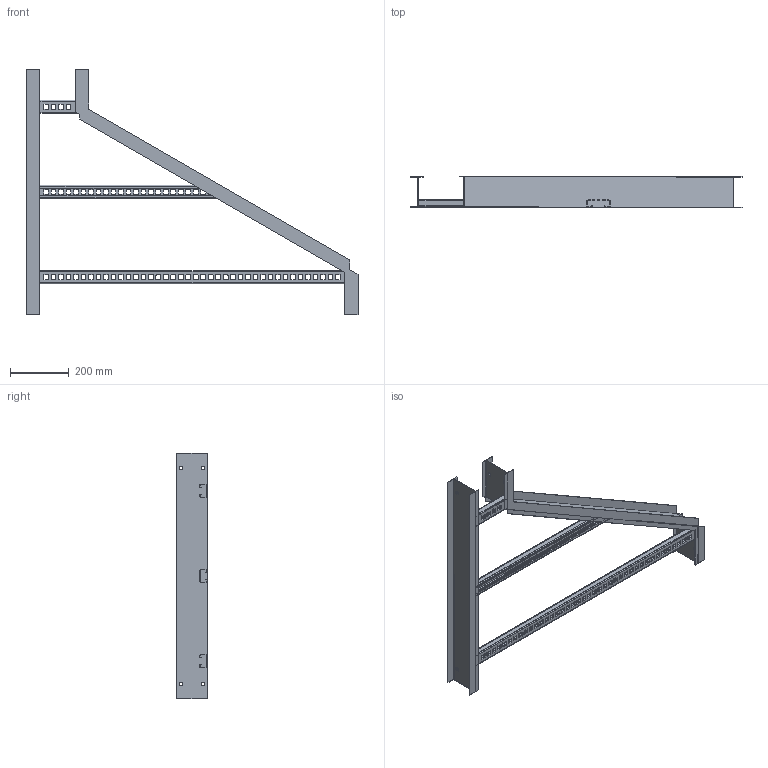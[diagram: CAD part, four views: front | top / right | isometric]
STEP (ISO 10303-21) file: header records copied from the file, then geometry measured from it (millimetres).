
FILE_DESCRIPTION((''),'2;1');
FILE_NAME('AHF44206LHRR_ASM','2010-01-27T',('erouzier'),(''),'PRO/ENGINEER BY PARAMETRIC TECHNOLOGY CORPORATION, 2008510','PRO/ENGINEER BY PARAMETRIC TECHNOLOGY CORPORATION, 2008510','');
FILE_SCHEMA(('CONFIG_CONTROL_DESIGN'));
Length unit declared in the file: inch
Products named in the file (6): CDS013976-4-36; CDS013867-4-360; CDS002159L42-P; CDS002159L30-P_AF1; CDS002159L6-P_AF2; AHF44206LHRR_ASM
Assembly tree (5 placements, depth 2):
  AHF44206LHRR_ASM
    CDS013976-4-36
    CDS013867-4-360
    CDS002159L42-P
    CDS002159L30-P_AF1
    CDS002159L6-P_AF2
Bounding box: 1127 x 106.43 x 832.74 mm (x, y, z)
Volume: 1052691.1 mm3; surface area: 1248232.1 mm2
Topology: 5 solids, 5 shells, 715 faces, 2103 edges, 1398 vertices
Faces by surface type: plane 414, cylinder 301
Entity records: 24377 total; most frequent: CARTESIAN_POINT 4317, ORIENTED_EDGE 4206, DIRECTION 4135, EDGE_CURVE 2103, VECTOR 1501, LINE 1501, VERTEX_POINT 1398, AXIS2_PLACEMENT_3D 1317
